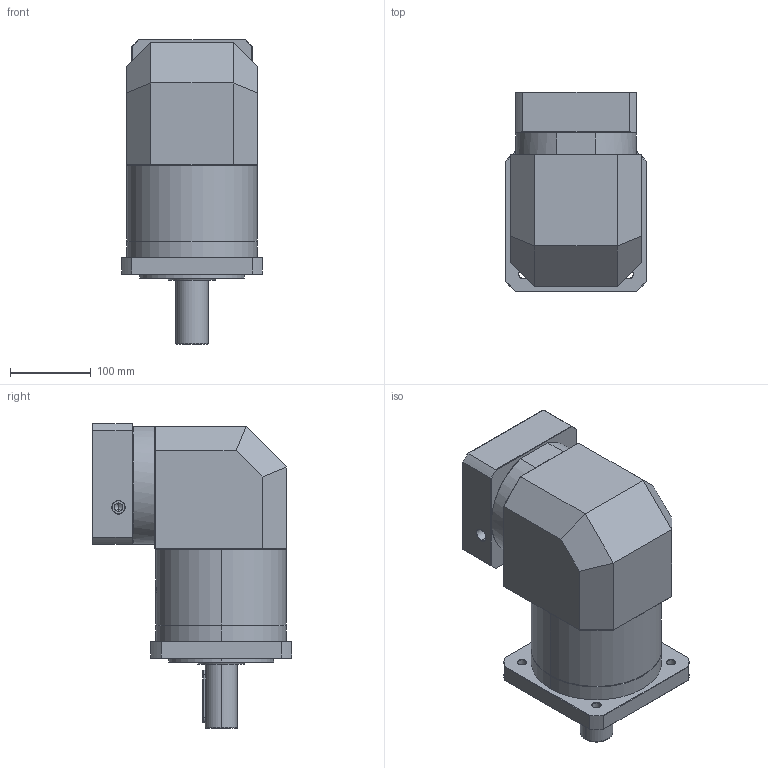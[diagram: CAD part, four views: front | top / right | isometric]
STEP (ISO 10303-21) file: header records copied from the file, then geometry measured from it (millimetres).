
FILE_DESCRIPTION (( 'STEP AP214' ), '1' );
FILE_NAME ('ZFR160A-D40-L2-P2-32-130-165-M10.step', '2023-09-03T08:58:11', ( '' ), ( '' ), 'SwSTEP 2.0', 'SolidWorks 2016', '' );
FILE_SCHEMA (( 'AUTOMOTIVE_DESIGN' ));
Length unit declared in the file: millimetre
Products named in the file (1): ZFR160A-D40-L2-P2-32-130-165-M10
Bounding box: 175 x 247.5 x 378.7 mm (x, y, z)
Volume: 7447633.4 mm3; surface area: 460608.1 mm2
Topology: 6 solids, 6 shells, 2204 faces, 5826 edges, 3729 vertices
Faces by surface type: plane 1048, cylinder 414, bspline 401, cone 306, torus 35
Entity records: 126814 total; most frequent: CARTESIAN_POINT 53316, ORIENTED_EDGE 11592, DIRECTION 8422, EDGE_CURVE 5796, VERTEX_POINT 3729, LINE 3088, VECTOR 3088, AXIS2_PLACEMENT_3D 2667
